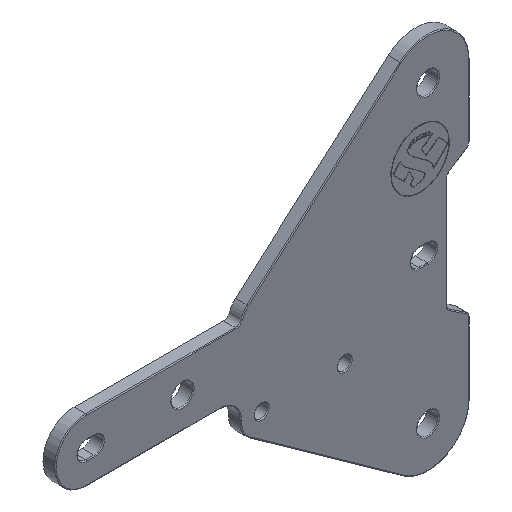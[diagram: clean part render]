
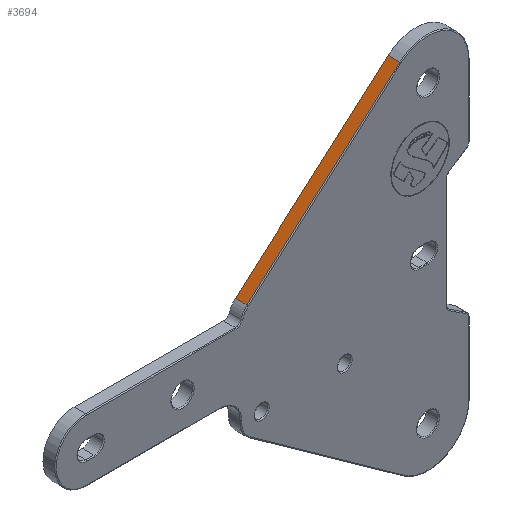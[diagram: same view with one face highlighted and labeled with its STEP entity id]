
A CAD part, isometric view. The second image highlights one B-rep face of the part: STEP entity #3694.
In plain terms, the highlighted planar face has unit normal (-0.66, 0, 0.752).
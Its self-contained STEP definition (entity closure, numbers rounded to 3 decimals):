
#377=PLANE('',#3917);
#572=FACE_OUTER_BOUND('',#791,.T.);
#791=EDGE_LOOP('',(#3360,#3361,#3362,#3363));
#1034=LINE('',#7986,#1286);
#1044=LINE('',#8017,#1296);
#1045=LINE('',#8021,#1297);
#1046=LINE('',#8022,#1298);
#1286=VECTOR('',#4516,10.);
#1296=VECTOR('',#4552,10.);
#1297=VECTOR('',#4557,10.);
#1298=VECTOR('',#4558,10.);
#1772=VERTEX_POINT('',#7980);
#1773=VERTEX_POINT('',#7984);
#1781=VERTEX_POINT('',#8016);
#1782=VERTEX_POINT('',#8020);
#2303=EDGE_CURVE('',#1773,#1772,#1034,.T.);
#2318=EDGE_CURVE('',#1781,#1772,#1044,.T.);
#2320=EDGE_CURVE('',#1782,#1773,#1045,.T.);
#2321=EDGE_CURVE('',#1782,#1781,#1046,.T.);
#3360=ORIENTED_EDGE('',*,*,#2303,.F.);
#3361=ORIENTED_EDGE('',*,*,#2320,.F.);
#3362=ORIENTED_EDGE('',*,*,#2321,.T.);
#3363=ORIENTED_EDGE('',*,*,#2318,.T.);
#3694=ADVANCED_FACE('',(#572),#377,.T.);
#3917=AXIS2_PLACEMENT_3D('',#8019,#4555,#4556);
#4516=DIRECTION('',(-0.752,0.,-0.66));
#4552=DIRECTION('',(0.,-1.,0.));
#4555=DIRECTION('center_axis',(-0.66,0.,0.752));
#4556=DIRECTION('ref_axis',(-0.752,0.,-0.66));
#4557=DIRECTION('',(0.,-1.,0.));
#4558=DIRECTION('',(-0.752,0.,-0.66));
#7980=CARTESIAN_POINT('',(-13.298,-2.8,10.758));
#7984=CARTESIAN_POINT('',(23.453,-2.8,43.016));
#7986=CARTESIAN_POINT('',(3.399,-2.8,25.413));
#8016=CARTESIAN_POINT('',(-13.298,0.,10.758));
#8017=CARTESIAN_POINT('',(-13.298,0.,10.758));
#8019=CARTESIAN_POINT('Origin',(23.453,0.,43.016));
#8020=CARTESIAN_POINT('',(23.453,0.,43.016));
#8021=CARTESIAN_POINT('',(23.453,0.,43.016));
#8022=CARTESIAN_POINT('',(23.453,0.,43.016));
